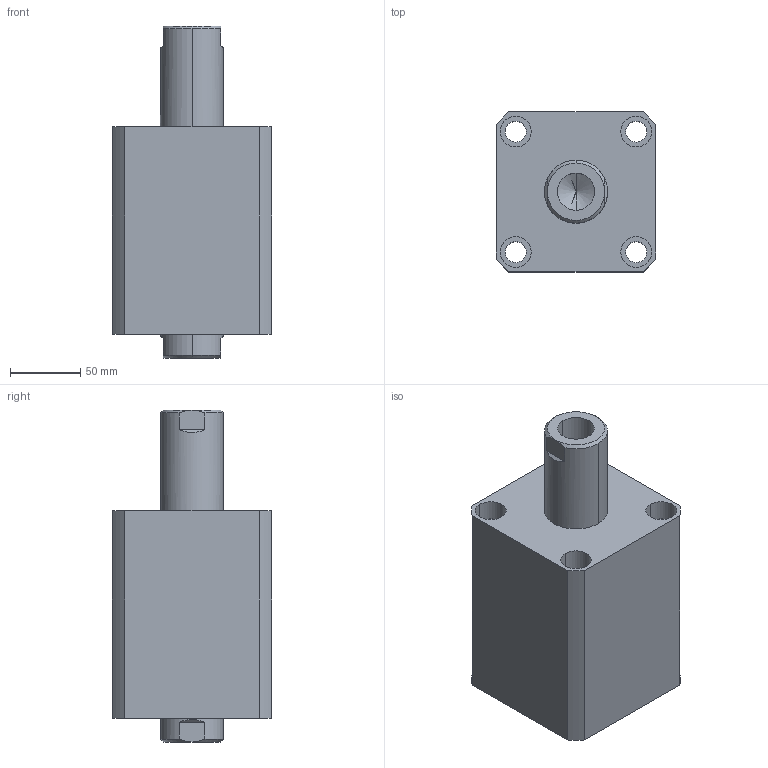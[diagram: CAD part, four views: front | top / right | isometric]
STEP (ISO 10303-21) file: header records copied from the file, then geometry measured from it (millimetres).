
FILE_DESCRIPTION (( 'STEP AP214' ), '1' );
FILE_NAME ('chtb-sw80x55n_asm.STEP', '2018-05-28T00:48:55', ( 'Windows' ), ( 'Microsoft' ), 'SwSTEP 2.0', 'SolidWorks 2015', '' );
FILE_SCHEMA (( 'AUTOMOTIVE_DESIGN' ));
Length unit declared in the file: millimetre
Products named in the file (4): CHTB-SW80X55NBT; CHTB-SD80X55NHSG; CHTB-SD80QG; chtb-sw80x55n_asm
Assembly tree (3 placements, depth 2):
  chtb-sw80x55n_asm
    CHTB-SD80QG
    CHTB-SD80X55NHSG
    CHTB-SW80X55NBT
Bounding box: 114 x 114 x 237 mm (x, y, z)
Volume: 1658624 mm3; surface area: 233399.3 mm2
Topology: 3 solids, 3 shells, 208 faces, 550 edges, 365 vertices
Faces by surface type: cylinder 109, plane 42, cone 25, torus 18, bspline 14
Entity records: 15645 total; most frequent: CARTESIAN_POINT 10539, ORIENTED_EDGE 1084, DIRECTION 970, EDGE_CURVE 542, AXIS2_PLACEMENT_3D 407, VERTEX_POINT 365, EDGE_LOOP 249, FACE_OUTER_BOUND 208
